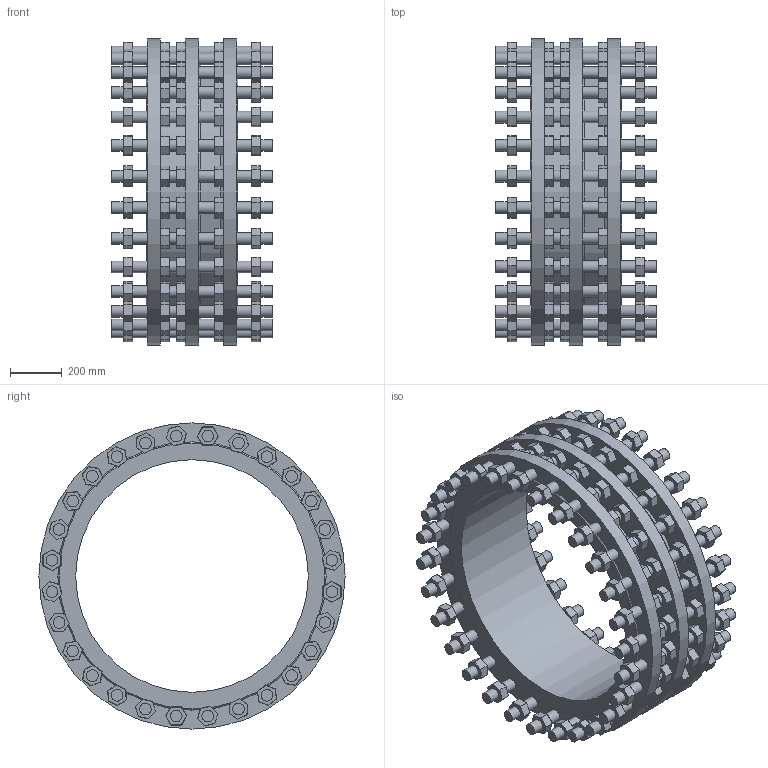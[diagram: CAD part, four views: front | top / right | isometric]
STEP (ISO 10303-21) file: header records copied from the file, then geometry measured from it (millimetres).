
FILE_DESCRIPTION (( 'STEP AP203' ), '1' );
FILE_NAME ('873090000741000.STEP', '2021-11-05T10:19:02', ( '' ), ( '' ), 'SwSTEP 2.0', 'SolidWorks 2020', '' );
FILE_SCHEMA (( 'CONFIG_CONTROL_DESIGN' ));
Length unit declared in the file: millimetre
Products named in the file (1): 873090000741000
Bounding box: 620 x 1185 x 1185 mm (x, y, z)
Volume: 119778851.1 mm3; surface area: 9019218.4 mm2
Topology: 141 solids, 141 shells, 3127 faces, 6775 edges, 3993 vertices
Faces by surface type: plane 2865, cylinder 259, cone 3
Full cylindrical faces by diameter (mm): 43.5 x140, 45 x112, 900 x1, 935 x1, 950 x1, 980 x1, 1185 x3
Entity records: 79929 total; most frequent: CARTESIAN_POINT 13414, DIRECTION 13182, ORIENTED_EDGE 12806, EDGE_CURVE 6403, LINE 5880, VECTOR 5880, VERTEX_POINT 3883, EDGE_LOOP 3846
